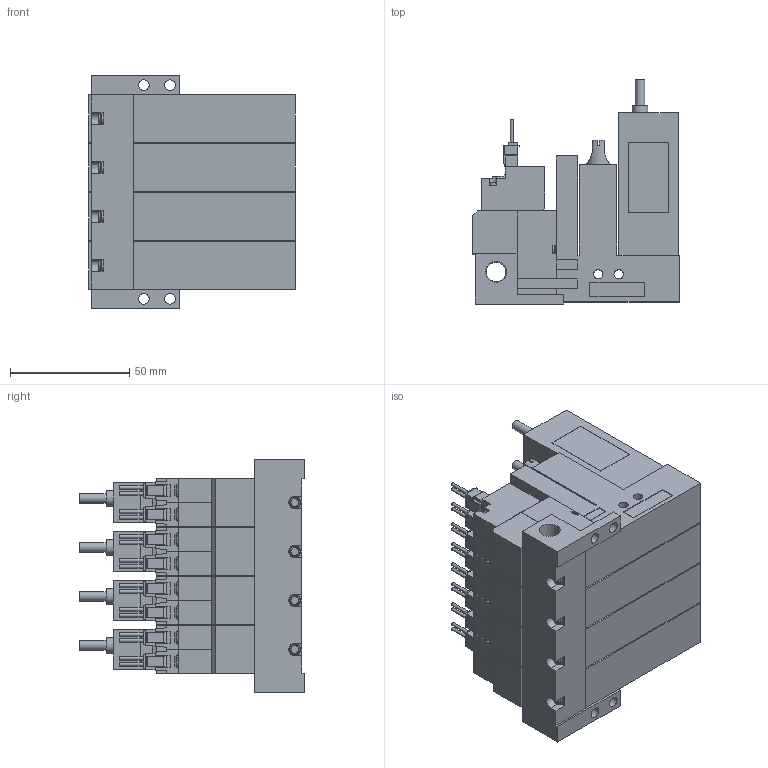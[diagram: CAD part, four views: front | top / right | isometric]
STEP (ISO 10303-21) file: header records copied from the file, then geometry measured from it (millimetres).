
FILE_DESCRIPTION(('STEP AP203'),'1');
FILE_NAME('VG_VGPL5BLR404.stp','2025-02-18T23:37:20',(' '),(' '),'Spatial InterOp 3D',' ',' ');
FILE_SCHEMA(('CONFIG_CONTROL_DESIGN'));
Length unit declared in the file: millimetre
Products named in the file (5): BMC22M※※※※VG_VGPL5BLR404; Solenoid valve B; Pressure sensor VGL; Unit L; Base MR40R
Assembly tree (13 placements, depth 2):
  BMC22M※※※※VG_VGPL5BLR404
    Solenoid valve B  x4
    Pressure sensor VGL  x4
    Unit L  x4
    Base MR40R
Bounding box: 86.6 x 94 x 97.5 mm (x, y, z)
Volume: 399077.5 mm3; surface area: 107890.4 mm2
Topology: 13 solids, 13 shells, 1441 faces, 3859 edges, 2556 vertices
Faces by surface type: plane 1214, cylinder 185, cone 30, torus 12
Full cylindrical faces by diameter (mm): 1.4 x16, 2.5 x12, 3 x16, 3.5 x16, 3.6 x4, 4 x24, 4.134 x4, 4.5 x4, 5.2 x4, 6 x4, 6.5 x4, 6.6 x4, 8.279 x1
Entity records: 13088 total; most frequent: CARTESIAN_POINT 2458, DIRECTION 2086, ORIENTED_EDGE 2052, EDGE_CURVE 1026, LINE 832, VECTOR 832, VERTEX_POINT 719, AXIS2_PLACEMENT_3D 627
